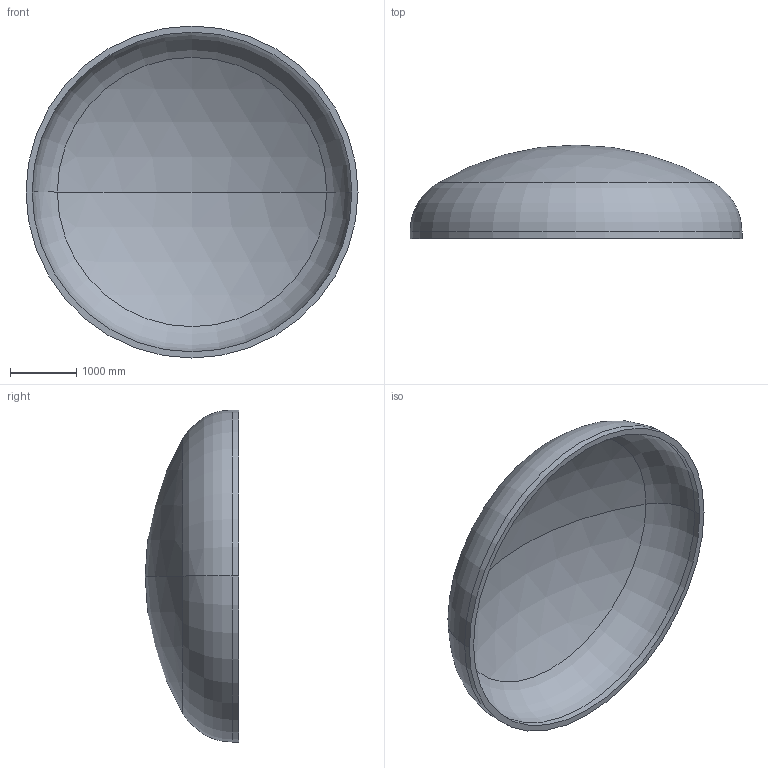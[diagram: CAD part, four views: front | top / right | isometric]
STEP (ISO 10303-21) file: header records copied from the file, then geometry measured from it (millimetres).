
FILE_DESCRIPTION (( 'STEP AP203' ), '1' );
FILE_NAME ('DIN 28013 Korbbogenform_-_Boden DIN 28013 - 5000 x 100 - I - s=92.step', '2016-07-02T00:52:23', ( '' ), ( '' ), 'SwSTEP 2.0', 'SolidWorks 2013', '' );
FILE_SCHEMA (( 'CONFIG_CONTROL_DESIGN' ));
Length unit declared in the file: millimetre
Products named in the file (1): DIN 28013 Korbbogenform_-_Boden DIN 28013 - 5000 x 100 - I - s=92
Bounding box: 5000 x 1408.14 x 5000 mm (x, y, z)
Volume: 2583773491.3 mm3; surface area: 57605237.6 mm2
Topology: 1 solids, 1 shells, 13 faces, 24 edges, 14 vertices
Faces by surface type: torus 4, cylinder 4, sphere 4, plane 1
Entity records: 407 total; most frequent: DIRECTION 72, CARTESIAN_POINT 52, ORIENTED_EDGE 48, AXIS2_PLACEMENT_3D 34, EDGE_CURVE 24, CIRCLE 20, EDGE_LOOP 14, VERTEX_POINT 14
